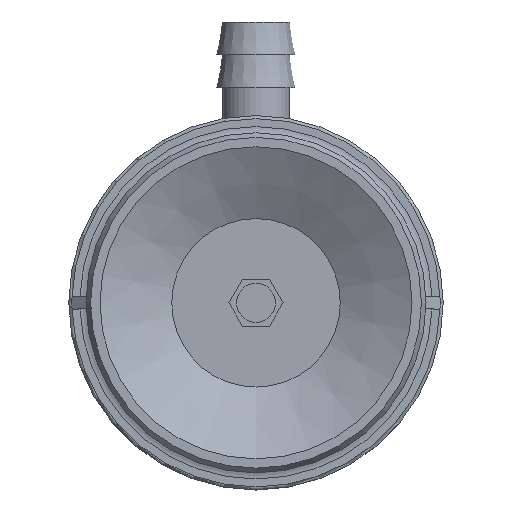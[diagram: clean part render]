
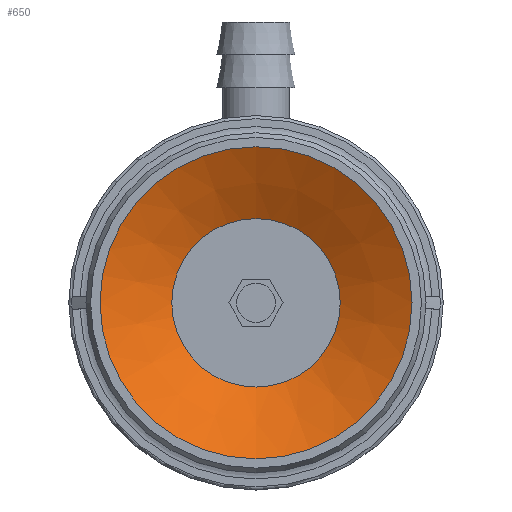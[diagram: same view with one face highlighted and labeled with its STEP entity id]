
A CAD part, front view. The second image highlights one B-rep face of the part: STEP entity #650.
In plain terms, the highlighted conical face has half-angle 61.631 degrees and reference radius 5.4 mm.
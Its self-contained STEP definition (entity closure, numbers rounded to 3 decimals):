
#650=ADVANCED_FACE('',(#1002,#1003),#1004,.F.);
#1002=FACE_BOUND('',#1391,.T.);
#1003=FACE_OUTER_BOUND('',#1392,.T.);
#1004=CONICAL_SURFACE('',#1393,5.4,1.076);
#1391=EDGE_LOOP('',(#2403));
#1392=EDGE_LOOP('',(#2404));
#1393=AXIS2_PLACEMENT_3D('',#2405,#2406,#2407);
#2403=ORIENTED_EDGE('',*,*,#2818,.F.);
#2404=ORIENTED_EDGE('',*,*,#2820,.T.);
#2405=CARTESIAN_POINT('',(0.0,2.484,0.0));
#2406=DIRECTION('',(-0.0,-1.0,0.));
#2407=DIRECTION('',(0.0,0.,-1.0));
#2818=EDGE_CURVE('',#3312,#3312,#3313,.T.);
#2820=EDGE_CURVE('',#3316,#3316,#3317,.T.);
#3312=VERTEX_POINT('',#4320);
#3313=CIRCLE('',#4321,5.4);
#3316=VERTEX_POINT('',#4324);
#3317=CIRCLE('',#4325,10.0);
#4320=CARTESIAN_POINT('',(0.0,2.484,-5.4));
#4321=AXIS2_PLACEMENT_3D('',#4818,#4819,#4820);
#4324=CARTESIAN_POINT('',(0.0,0.,-10.0));
#4325=AXIS2_PLACEMENT_3D('',#4824,#4825,#4826);
#4818=CARTESIAN_POINT('',(0.0,2.484,0.0));
#4819=DIRECTION('',(0.0,-1.0,0.));
#4820=DIRECTION('',(0.0,0.,-1.0));
#4824=CARTESIAN_POINT('',(0.0,0.0,0.0));
#4825=DIRECTION('',(0.0,-1.0,0.));
#4826=DIRECTION('',(0.0,0.,-1.0));
